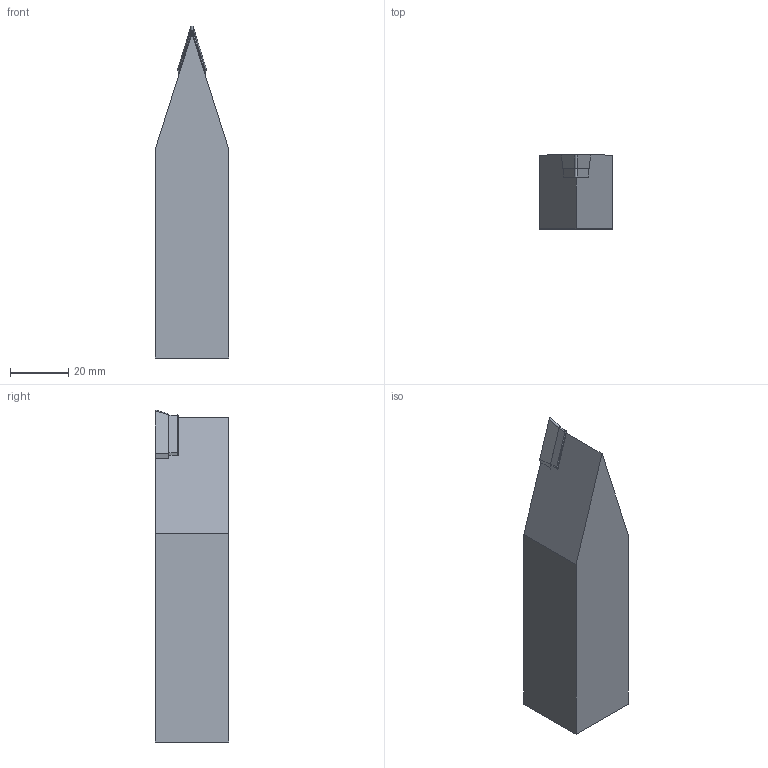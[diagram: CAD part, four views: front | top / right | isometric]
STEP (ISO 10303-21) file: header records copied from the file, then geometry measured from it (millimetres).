
FILE_DESCRIPTION (( 'STEP AP203' ), '1' );
FILE_NAME ('SVVBN16-3B-HAAS.STEP', '2020-11-06T07:57:26', ( '' ), ( '' ), 'SwSTEP 2.0', 'SolidWorks 2015', '' );
FILE_SCHEMA (( 'CONFIG_CONTROL_DESIGN' ));
Length unit declared in the file: millimetre
Products named in the file (5): VBGT160404_ル遽; SVVBN16-3B-HAAS; SV32S_ル遽; SVVBN16-3B-HAAS_ル遽
Assembly tree (4 placements, depth 3):
  SVVBN16-3B-HAAS
    SVVBN16-3B-HAAS
      SVVBN16-3B-HAAS_ル遽
      SV32S_ル遽
      VBGT160404_ル遽
Bounding box: 25.4 x 25.4 x 114.31 mm (x, y, z)
Volume: 59156.2 mm3; surface area: 12124.9 mm2
Topology: 3 solids, 3 shells, 40 faces, 92 edges, 59 vertices
Faces by surface type: plane 30, cylinder 7, cone 3
Full cylindrical faces by diameter (mm): 4.5 x1, 5.4 x1, 6.7 x1
Entity records: 1628 total; most frequent: CARTESIAN_POINT 207, DIRECTION 193, ORIENTED_EDGE 176, EDGE_CURVE 88, LINE 71, VECTOR 71, AXIS2_PLACEMENT_3D 61, VERTEX_POINT 59
